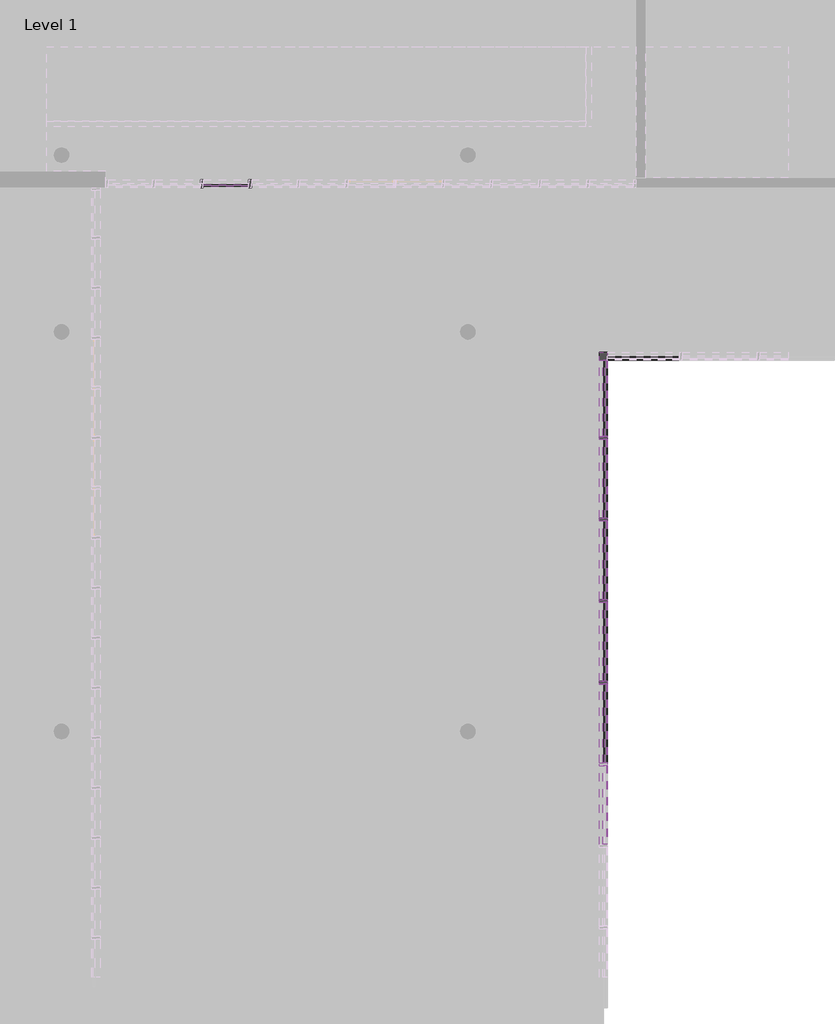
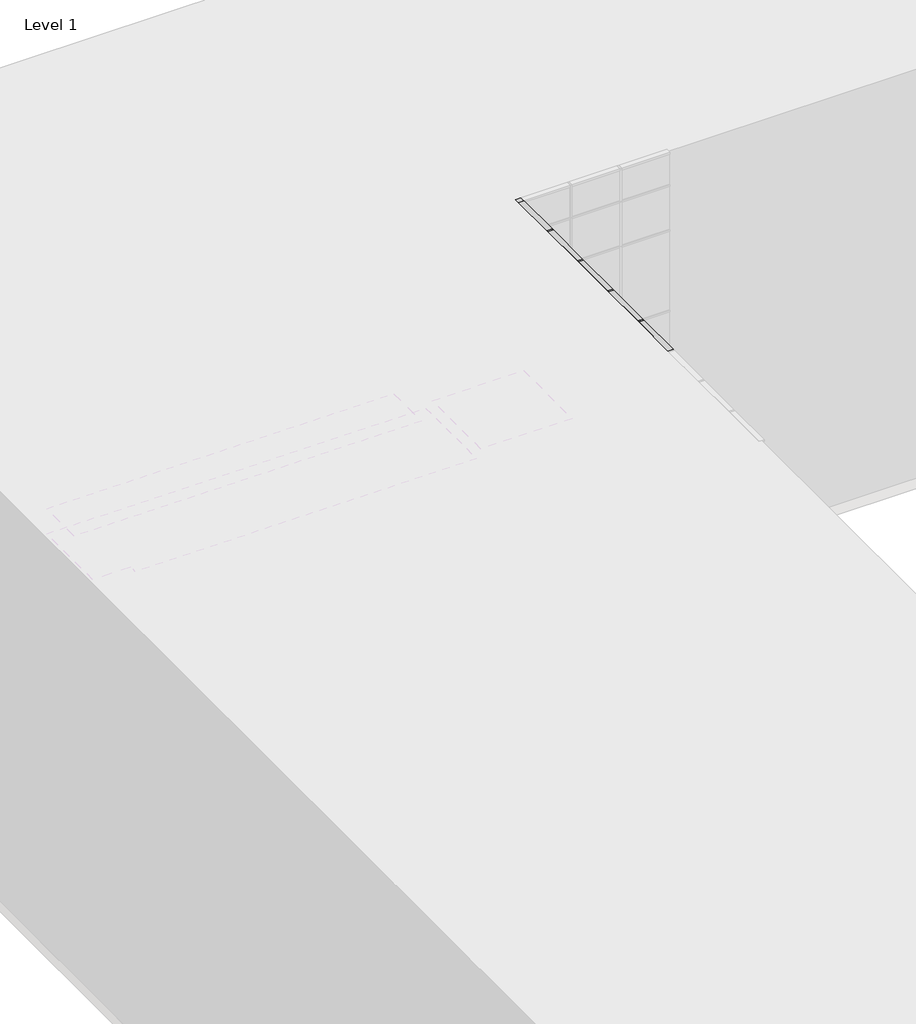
# One storey, part 13 of 27: 90 members, 39 plates.
"""IFC4 building model written with IfcOpenShell, lengths in millimetres."""

from ifc_helpers import new_model, si_unit, origin, place, context, project, spatial, transform, mapped, element, save
from components import quad_corner_mullion_quad_mullion_1_893af7fe, quad_corner_mullion_quad_mullion_1_37ac55ff, quad_corner_mullion_quad_mullion_1_d5379b67, rectangular_mullion_50mm_x_150mm_0e57614d, rectangular_mullion_50mm_x_150mm_d8a63713, rectangular_mullion_50mm_x_150mm_caa46ae3, rectangular_mullion_50mm_x_150mm_a28728bf, rectangular_mullion_50mm_x_150mm_70cae3e1, rectangular_mullion_50mm_x_150mm_5226f6e8, rectangular_mullion_50mm_x_150mm_4fd86324, rectangular_mullion_50mm_x_150mm_6edb5cd3, rectangular_mullion_50mm_x_150mm_4d4922e7, rectangular_mullion_50mm_x_150mm_bbc1c4ea, rectangular_mullion_50mm_x_150mm_36202a7c, rectangular_mullion_50mm_x_150mm_84717ec5, system_panel_glazed_4aef0c34, system_panel_glazed_45ebec01, system_panel_glazed_979b1f5c, system_panel_glazed_2d0f29b6, system_panel_glazed_2f061a2c, system_panel_glazed_cb2ac81e, system_panel_solid_281aa57f, system_panel_solid_7338a288, system_panel_solid_71fc82a1, system_panel_solid_0b170172

model = new_model("IFC4")

# Units and contexts
model_context = context("Model", 3, world=origin())
ifc_project = project(units=[si_unit("LENGTHUNIT", "METRE", prefix="MILLI")], contexts=[model_context])

# Site, building, storey
site = spatial("IfcSite", under=ifc_project)
building = spatial("IfcBuilding", under=site)
storey = spatial("IfcBuildingStorey", under=building, Name="Level 1", Elevation=0.0)

# Members
placement = place(None, origin())
quad_corner_mullion_quad_mullion_1_shape = quad_corner_mullion_quad_mullion_1_893af7fe(model_context)
element("IfcMember", 1, ObjectType="Quad Corner Mullion : Quad Mullion 1", at=placement, inside=storey, context=model_context, shape_type="MappedRepresentation", body=[
    mapped(quad_corner_mullion_quad_mullion_1_shape, transform((7447.5010724, 19414.8392059, 11400.0), x_axis=(0.0, 1.0, 0.0), y_axis=(1.0, 0.0, 0.0), z_axis=(0.0, 0.0, -1.0))),
])
quad_corner_mullion_quad_mullion_1_2_shape = quad_corner_mullion_quad_mullion_1_37ac55ff(model_context)
element("IfcMember", 2, ObjectType="Quad Corner Mullion : Quad Mullion 1", at=placement, inside=storey, context=model_context, shape_type="MappedRepresentation", body=[
    mapped(quad_corner_mullion_quad_mullion_1_2_shape, transform((7447.5010724, 19414.8392059, 0.0), x_axis=(0.0, 1.0, 0.0), y_axis=(1.0, 0.0, 0.0), z_axis=(0.0, 0.0, -1.0))),
])
quad_corner_mullion_quad_mullion_1_3_shape = quad_corner_mullion_quad_mullion_1_d5379b67(model_context)
element("IfcMember", 3, ObjectType="Quad Corner Mullion : Quad Mullion 1", at=placement, inside=storey, context=model_context, shape_type="MappedRepresentation", body=[
    mapped(quad_corner_mullion_quad_mullion_1_3_shape, transform((7447.5010724, 19414.8392059, 10040.0), x_axis=(0.0, 1.0, 0.0), y_axis=(1.0, 0.0, 0.0), z_axis=(0.0, 0.0, -1.0))),
])
element("IfcMember", 4, ObjectType="Quad Corner Mullion : Quad Mullion 1", at=placement, inside=storey, context=model_context, shape_type="MappedRepresentation", body=[
    mapped(quad_corner_mullion_quad_mullion_1_3_shape, transform((7447.5010724, 19414.8392059, 6240.0), x_axis=(0.0, 1.0, 0.0), y_axis=(1.0, 0.0, 0.0), z_axis=(0.0, 0.0, -1.0))),
])
element("IfcMember", 5, ObjectType="Quad Corner Mullion : Quad Mullion 1", at=placement, inside=storey, context=model_context, shape_type="MappedRepresentation", body=[
    mapped(quad_corner_mullion_quad_mullion_1_3_shape, transform((7447.5010724, 19414.8392059, 2440.0), x_axis=(0.0, 1.0, 0.0), y_axis=(1.0, 0.0, 0.0), z_axis=(0.0, 0.0, -1.0))),
])
element("IfcMember", 6, ObjectType="Quad Corner Mullion : Quad Mullion 1", at=placement, inside=storey, context=model_context, shape_type="MappedRepresentation", body=[
    mapped(quad_corner_mullion_quad_mullion_1_2_shape, transform((7447.5010724, 19414.8392059, 3800.0), x_axis=(0.0, 1.0, 0.0), y_axis=(1.0, 0.0, 0.0), z_axis=(0.0, 0.0, -1.0))),
])
element("IfcMember", 7, ObjectType="Quad Corner Mullion : Quad Mullion 1", at=placement, inside=storey, context=model_context, shape_type="MappedRepresentation", body=[
    mapped(quad_corner_mullion_quad_mullion_1_2_shape, transform((7447.5010724, 19414.8392059, 7600.0), x_axis=(0.0, 1.0, 0.0), y_axis=(1.0, 0.0, 0.0), z_axis=(0.0, 0.0, -1.0))),
])
rectangular_mullion_50mm_x_150mm_shape = rectangular_mullion_50mm_x_150mm_0e57614d(model_context)
element("IfcMember", 8, ObjectType="Rectangular Mullion : 50mm x 150mm", at=placement, inside=storey, context=model_context, shape_type="MappedRepresentation", body=[
    mapped(rectangular_mullion_50mm_x_150mm_shape, transform((962.43581, 22595.5799804, 3550.0), x_axis=(0.0, 0.0, 1.0), y_axis=(0.0, 1.0, 0.0), z_axis=(-1.0, 0.0, 0.0))),
])
element("IfcMember", 9, ObjectType="Rectangular Mullion : 50mm x 150mm", at=placement, inside=storey, context=model_context, shape_type="MappedRepresentation", body=[
    mapped(rectangular_mullion_50mm_x_150mm_shape, transform((73.6776523, 22595.5799804, 3550.0), x_axis=(0.0, 0.0, 1.0), y_axis=(0.0, 1.0, 0.0), z_axis=(-1.0, 0.0, 0.0))),
])
element("IfcMember", 10, ObjectType="Rectangular Mullion : 50mm x 150mm", at=placement, inside=storey, context=model_context, shape_type="MappedRepresentation", body=[
    mapped(rectangular_mullion_50mm_x_150mm_shape, transform((912.43581, 22595.5799804, 0.0), x_axis=(0.0, 0.0, -1.0), y_axis=(0.0, 1.0, 0.0), z_axis=(1.0, 0.0, 0.0))),
])
element("IfcMember", 11, ObjectType="Rectangular Mullion : 50mm x 150mm", at=placement, inside=storey, context=model_context, shape_type="MappedRepresentation", body=[
    mapped(rectangular_mullion_50mm_x_150mm_shape, transform((23.6776523, 22595.5799804, 0.0), x_axis=(0.0, 0.0, -1.0), y_axis=(0.0, 1.0, 0.0), z_axis=(1.0, 0.0, 0.0))),
])
rectangular_mullion_50mm_x_150mm_2_shape = rectangular_mullion_50mm_x_150mm_d8a63713(model_context)
element("IfcMember", 12, ObjectType="Rectangular Mullion : 50mm x 150mm", at=placement, inside=storey, context=model_context, shape_type="MappedRepresentation", body=[
    mapped(rectangular_mullion_50mm_x_150mm_2_shape, transform((937.43581, 22595.5799804, 0.0), x_axis=(-1.0, 0.0, 0.0), y_axis=(0.0, 1.0, 0.0), z_axis=(0.0, 0.0, -1.0))),
])
element("IfcMember", 13, ObjectType="Rectangular Mullion : 50mm x 150mm", at=placement, inside=storey, context=model_context, shape_type="MappedRepresentation", body=[
    mapped(rectangular_mullion_50mm_x_150mm_2_shape, transform((48.6776523, 22595.5799804, 0.0), x_axis=(-1.0, 0.0, 0.0), y_axis=(0.0, 1.0, 0.0), z_axis=(0.0, 0.0, -1.0))),
])
rectangular_mullion_50mm_x_150mm_3_shape = rectangular_mullion_50mm_x_150mm_caa46ae3(model_context)
element("IfcMember", 14, ObjectType="Rectangular Mullion : 50mm x 150mm", at=placement, inside=storey, context=model_context, shape_type="MappedRepresentation", body=[
    mapped(rectangular_mullion_50mm_x_150mm_3_shape, transform((962.43581, 22595.5799804, 2235.0), x_axis=(0.0, 0.0, 1.0), y_axis=(0.0, 1.0, 0.0), z_axis=(-1.0, 0.0, 0.0))),
])
element("IfcMember", 15, ObjectType="Rectangular Mullion : 50mm x 150mm", at=placement, inside=storey, context=model_context, shape_type="MappedRepresentation", body=[
    mapped(rectangular_mullion_50mm_x_150mm_3_shape, transform((73.6776523, 22595.5799804, 2235.0), x_axis=(0.0, 0.0, 1.0), y_axis=(0.0, 1.0, 0.0), z_axis=(-1.0, 0.0, 0.0))),
])
rectangular_mullion_50mm_x_150mm_4_shape = rectangular_mullion_50mm_x_150mm_a28728bf(model_context)
element("IfcMember", 16, ObjectType="Rectangular Mullion : 50mm x 150mm", at=placement, inside=storey, context=model_context, shape_type="MappedRepresentation", body=[
    mapped(rectangular_mullion_50mm_x_150mm_4_shape, transform((937.43581, 22595.5799804, 2135.0), x_axis=(-1.0, 0.0, 0.0), y_axis=(0.0, 1.0, 0.0), z_axis=(0.0, 0.0, -1.0))),
])
element("IfcMember", 17, ObjectType="Rectangular Mullion : 50mm x 150mm", at=placement, inside=storey, context=model_context, shape_type="MappedRepresentation", body=[
    mapped(rectangular_mullion_50mm_x_150mm_4_shape, transform((48.6776523, 22595.5799804, 2135.0), x_axis=(-1.0, 0.0, 0.0), y_axis=(0.0, 1.0, 0.0), z_axis=(0.0, 0.0, -1.0))),
])
rectangular_mullion_50mm_x_150mm_5_shape = rectangular_mullion_50mm_x_150mm_70cae3e1(model_context)
element("IfcMember", 18, ObjectType="Rectangular Mullion : 50mm x 150mm", at=placement, inside=storey, context=model_context, shape_type="MappedRepresentation", body=[
    mapped(rectangular_mullion_50mm_x_150mm_5_shape, transform((7447.5010724, 13380.8485819, 12400.0), x_axis=(0.0, 0.0, 1.0), y_axis=(1.0, 0.0, 0.0), z_axis=(0.0, 1.0, 0.0))),
])
element("IfcMember", 19, ObjectType="Rectangular Mullion : 50mm x 150mm", at=placement, inside=storey, context=model_context, shape_type="MappedRepresentation", body=[
    mapped(rectangular_mullion_50mm_x_150mm_5_shape, transform((7447.5010724, 14883.0962378, 12400.0), x_axis=(0.0, 0.0, 1.0), y_axis=(1.0, 0.0, 0.0), z_axis=(0.0, 1.0, 0.0))),
])
element("IfcMember", 20, ObjectType="Rectangular Mullion : 50mm x 150mm", at=placement, inside=storey, context=model_context, shape_type="MappedRepresentation", body=[
    mapped(rectangular_mullion_50mm_x_150mm_5_shape, transform((7447.5010724, 16385.3438937, 12400.0), x_axis=(0.0, 0.0, 1.0), y_axis=(1.0, 0.0, 0.0), z_axis=(0.0, 1.0, 0.0))),
])
element("IfcMember", 21, ObjectType="Rectangular Mullion : 50mm x 150mm", at=placement, inside=storey, context=model_context, shape_type="MappedRepresentation", body=[
    mapped(rectangular_mullion_50mm_x_150mm_5_shape, transform((7447.5010724, 17887.5915497, 12400.0), x_axis=(0.0, 0.0, 1.0), y_axis=(1.0, 0.0, 0.0), z_axis=(0.0, 1.0, 0.0))),
])
element("IfcMember", 22, ObjectType="Rectangular Mullion : 50mm x 150mm", at=placement, inside=storey, context=model_context, shape_type="MappedRepresentation", body=[
    mapped(rectangular_mullion_50mm_x_150mm_5_shape, transform((7447.5010724, 11928.6009259, 0.0), x_axis=(0.0, 0.0, -1.0), y_axis=(1.0, 0.0, 0.0), z_axis=(0.0, -1.0, 0.0))),
])
element("IfcMember", 23, ObjectType="Rectangular Mullion : 50mm x 150mm", at=placement, inside=storey, context=model_context, shape_type="MappedRepresentation", body=[
    mapped(rectangular_mullion_50mm_x_150mm_5_shape, transform((7447.5010724, 13430.8485819, 0.0), x_axis=(0.0, 0.0, -1.0), y_axis=(1.0, 0.0, 0.0), z_axis=(0.0, -1.0, 0.0))),
])
element("IfcMember", 24, ObjectType="Rectangular Mullion : 50mm x 150mm", at=placement, inside=storey, context=model_context, shape_type="MappedRepresentation", body=[
    mapped(rectangular_mullion_50mm_x_150mm_5_shape, transform((7447.5010724, 14933.0962378, 0.0), x_axis=(0.0, 0.0, -1.0), y_axis=(1.0, 0.0, 0.0), z_axis=(0.0, -1.0, 0.0))),
])
element("IfcMember", 25, ObjectType="Rectangular Mullion : 50mm x 150mm", at=placement, inside=storey, context=model_context, shape_type="MappedRepresentation", body=[
    mapped(rectangular_mullion_50mm_x_150mm_5_shape, transform((7447.5010724, 16435.3438937, 0.0), x_axis=(0.0, 0.0, -1.0), y_axis=(1.0, 0.0, 0.0), z_axis=(0.0, -1.0, 0.0))),
])
rectangular_mullion_50mm_x_150mm_6_shape = rectangular_mullion_50mm_x_150mm_5226f6e8(model_context)
element("IfcMember", 26, ObjectType="Rectangular Mullion : 50mm x 150mm", at=placement, inside=storey, context=model_context, shape_type="MappedRepresentation", body=[
    mapped(rectangular_mullion_50mm_x_150mm_6_shape, transform((7447.5010724, 13380.8485819, 3800.0), x_axis=(0.0, 0.0, 1.0), y_axis=(1.0, 0.0, 0.0), z_axis=(0.0, 1.0, 0.0))),
])
element("IfcMember", 27, ObjectType="Rectangular Mullion : 50mm x 150mm", at=placement, inside=storey, context=model_context, shape_type="MappedRepresentation", body=[
    mapped(rectangular_mullion_50mm_x_150mm_6_shape, transform((7447.5010724, 14883.0962378, 3800.0), x_axis=(0.0, 0.0, 1.0), y_axis=(1.0, 0.0, 0.0), z_axis=(0.0, 1.0, 0.0))),
])
element("IfcMember", 28, ObjectType="Rectangular Mullion : 50mm x 150mm", at=placement, inside=storey, context=model_context, shape_type="MappedRepresentation", body=[
    mapped(rectangular_mullion_50mm_x_150mm_6_shape, transform((7447.5010724, 16385.3438937, 3800.0), x_axis=(0.0, 0.0, 1.0), y_axis=(1.0, 0.0, 0.0), z_axis=(0.0, 1.0, 0.0))),
])
element("IfcMember", 29, ObjectType="Rectangular Mullion : 50mm x 150mm", at=placement, inside=storey, context=model_context, shape_type="MappedRepresentation", body=[
    mapped(rectangular_mullion_50mm_x_150mm_6_shape, transform((7447.5010724, 17887.5915497, 3800.0), x_axis=(0.0, 0.0, 1.0), y_axis=(1.0, 0.0, 0.0), z_axis=(0.0, 1.0, 0.0))),
])
element("IfcMember", 30, ObjectType="Rectangular Mullion : 50mm x 150mm", at=placement, inside=storey, context=model_context, shape_type="MappedRepresentation", body=[
    mapped(rectangular_mullion_50mm_x_150mm_6_shape, transform((7447.5010724, 13380.8485819, 7600.0), x_axis=(0.0, 0.0, 1.0), y_axis=(1.0, 0.0, 0.0), z_axis=(0.0, 1.0, 0.0))),
])
element("IfcMember", 31, ObjectType="Rectangular Mullion : 50mm x 150mm", at=placement, inside=storey, context=model_context, shape_type="MappedRepresentation", body=[
    mapped(rectangular_mullion_50mm_x_150mm_6_shape, transform((7447.5010724, 14883.0962378, 7600.0), x_axis=(0.0, 0.0, 1.0), y_axis=(1.0, 0.0, 0.0), z_axis=(0.0, 1.0, 0.0))),
])
element("IfcMember", 32, ObjectType="Rectangular Mullion : 50mm x 150mm", at=placement, inside=storey, context=model_context, shape_type="MappedRepresentation", body=[
    mapped(rectangular_mullion_50mm_x_150mm_6_shape, transform((7447.5010724, 16385.3438937, 7600.0), x_axis=(0.0, 0.0, 1.0), y_axis=(1.0, 0.0, 0.0), z_axis=(0.0, 1.0, 0.0))),
])
element("IfcMember", 33, ObjectType="Rectangular Mullion : 50mm x 150mm", at=placement, inside=storey, context=model_context, shape_type="MappedRepresentation", body=[
    mapped(rectangular_mullion_50mm_x_150mm_6_shape, transform((7447.5010724, 17887.5915497, 7600.0), x_axis=(0.0, 0.0, 1.0), y_axis=(1.0, 0.0, 0.0), z_axis=(0.0, 1.0, 0.0))),
])
element("IfcMember", 34, ObjectType="Rectangular Mullion : 50mm x 150mm", at=placement, inside=storey, context=model_context, shape_type="MappedRepresentation", body=[
    mapped(rectangular_mullion_50mm_x_150mm_6_shape, transform((7447.5010724, 13380.8485819, 11400.0), x_axis=(0.0, 0.0, 1.0), y_axis=(1.0, 0.0, 0.0), z_axis=(0.0, 1.0, 0.0))),
])
element("IfcMember", 35, ObjectType="Rectangular Mullion : 50mm x 150mm", at=placement, inside=storey, context=model_context, shape_type="MappedRepresentation", body=[
    mapped(rectangular_mullion_50mm_x_150mm_6_shape, transform((7447.5010724, 14883.0962378, 11400.0), x_axis=(0.0, 0.0, 1.0), y_axis=(1.0, 0.0, 0.0), z_axis=(0.0, 1.0, 0.0))),
])
element("IfcMember", 36, ObjectType="Rectangular Mullion : 50mm x 150mm", at=placement, inside=storey, context=model_context, shape_type="MappedRepresentation", body=[
    mapped(rectangular_mullion_50mm_x_150mm_6_shape, transform((7447.5010724, 16385.3438937, 11400.0), x_axis=(0.0, 0.0, 1.0), y_axis=(1.0, 0.0, 0.0), z_axis=(0.0, 1.0, 0.0))),
])
element("IfcMember", 37, ObjectType="Rectangular Mullion : 50mm x 150mm", at=placement, inside=storey, context=model_context, shape_type="MappedRepresentation", body=[
    mapped(rectangular_mullion_50mm_x_150mm_6_shape, transform((7447.5010724, 17887.5915497, 11400.0), x_axis=(0.0, 0.0, 1.0), y_axis=(1.0, 0.0, 0.0), z_axis=(0.0, 1.0, 0.0))),
])
element("IfcMember", 38, ObjectType="Rectangular Mullion : 50mm x 150mm", at=placement, inside=storey, context=model_context, shape_type="MappedRepresentation", body=[
    mapped(rectangular_mullion_50mm_x_150mm_6_shape, transform((7447.5010724, 13380.8485819, 10040.0), x_axis=(0.0, 0.0, 1.0), y_axis=(1.0, 0.0, 0.0), z_axis=(0.0, 1.0, 0.0))),
])
element("IfcMember", 39, ObjectType="Rectangular Mullion : 50mm x 150mm", at=placement, inside=storey, context=model_context, shape_type="MappedRepresentation", body=[
    mapped(rectangular_mullion_50mm_x_150mm_6_shape, transform((7447.5010724, 14883.0962378, 10040.0), x_axis=(0.0, 0.0, 1.0), y_axis=(1.0, 0.0, 0.0), z_axis=(0.0, 1.0, 0.0))),
])
element("IfcMember", 40, ObjectType="Rectangular Mullion : 50mm x 150mm", at=placement, inside=storey, context=model_context, shape_type="MappedRepresentation", body=[
    mapped(rectangular_mullion_50mm_x_150mm_6_shape, transform((7447.5010724, 16385.3438937, 10040.0), x_axis=(0.0, 0.0, 1.0), y_axis=(1.0, 0.0, 0.0), z_axis=(0.0, 1.0, 0.0))),
])
element("IfcMember", 41, ObjectType="Rectangular Mullion : 50mm x 150mm", at=placement, inside=storey, context=model_context, shape_type="MappedRepresentation", body=[
    mapped(rectangular_mullion_50mm_x_150mm_6_shape, transform((7447.5010724, 17887.5915497, 10040.0), x_axis=(0.0, 0.0, 1.0), y_axis=(1.0, 0.0, 0.0), z_axis=(0.0, 1.0, 0.0))),
])
element("IfcMember", 42, ObjectType="Rectangular Mullion : 50mm x 150mm", at=placement, inside=storey, context=model_context, shape_type="MappedRepresentation", body=[
    mapped(rectangular_mullion_50mm_x_150mm_6_shape, transform((7447.5010724, 11878.6009259, 6240.0), x_axis=(0.0, 0.0, 1.0), y_axis=(1.0, 0.0, 0.0), z_axis=(0.0, 1.0, 0.0))),
])
element("IfcMember", 43, ObjectType="Rectangular Mullion : 50mm x 150mm", at=placement, inside=storey, context=model_context, shape_type="MappedRepresentation", body=[
    mapped(rectangular_mullion_50mm_x_150mm_6_shape, transform((7447.5010724, 13380.8485819, 6240.0), x_axis=(0.0, 0.0, 1.0), y_axis=(1.0, 0.0, 0.0), z_axis=(0.0, 1.0, 0.0))),
])
element("IfcMember", 44, ObjectType="Rectangular Mullion : 50mm x 150mm", at=placement, inside=storey, context=model_context, shape_type="MappedRepresentation", body=[
    mapped(rectangular_mullion_50mm_x_150mm_6_shape, transform((7447.5010724, 14883.0962378, 6240.0), x_axis=(0.0, 0.0, 1.0), y_axis=(1.0, 0.0, 0.0), z_axis=(0.0, 1.0, 0.0))),
])
element("IfcMember", 45, ObjectType="Rectangular Mullion : 50mm x 150mm", at=placement, inside=storey, context=model_context, shape_type="MappedRepresentation", body=[
    mapped(rectangular_mullion_50mm_x_150mm_6_shape, transform((7447.5010724, 16385.3438937, 6240.0), x_axis=(0.0, 0.0, 1.0), y_axis=(1.0, 0.0, 0.0), z_axis=(0.0, 1.0, 0.0))),
])
element("IfcMember", 46, ObjectType="Rectangular Mullion : 50mm x 150mm", at=placement, inside=storey, context=model_context, shape_type="MappedRepresentation", body=[
    mapped(rectangular_mullion_50mm_x_150mm_6_shape, transform((7447.5010724, 17887.5915497, 6240.0), x_axis=(0.0, 0.0, 1.0), y_axis=(1.0, 0.0, 0.0), z_axis=(0.0, 1.0, 0.0))),
])
element("IfcMember", 47, ObjectType="Rectangular Mullion : 50mm x 150mm", at=placement, inside=storey, context=model_context, shape_type="MappedRepresentation", body=[
    mapped(rectangular_mullion_50mm_x_150mm_6_shape, transform((7447.5010724, 11878.6009259, 2440.0), x_axis=(0.0, 0.0, 1.0), y_axis=(1.0, 0.0, 0.0), z_axis=(0.0, 1.0, 0.0))),
])
element("IfcMember", 48, ObjectType="Rectangular Mullion : 50mm x 150mm", at=placement, inside=storey, context=model_context, shape_type="MappedRepresentation", body=[
    mapped(rectangular_mullion_50mm_x_150mm_6_shape, transform((7447.5010724, 13380.8485819, 2440.0), x_axis=(0.0, 0.0, 1.0), y_axis=(1.0, 0.0, 0.0), z_axis=(0.0, 1.0, 0.0))),
])
element("IfcMember", 49, ObjectType="Rectangular Mullion : 50mm x 150mm", at=placement, inside=storey, context=model_context, shape_type="MappedRepresentation", body=[
    mapped(rectangular_mullion_50mm_x_150mm_6_shape, transform((7447.5010724, 14883.0962378, 2440.0), x_axis=(0.0, 0.0, 1.0), y_axis=(1.0, 0.0, 0.0), z_axis=(0.0, 1.0, 0.0))),
])
element("IfcMember", 50, ObjectType="Rectangular Mullion : 50mm x 150mm", at=placement, inside=storey, context=model_context, shape_type="MappedRepresentation", body=[
    mapped(rectangular_mullion_50mm_x_150mm_6_shape, transform((7447.5010724, 16385.3438937, 2440.0), x_axis=(0.0, 0.0, 1.0), y_axis=(1.0, 0.0, 0.0), z_axis=(0.0, 1.0, 0.0))),
])
element("IfcMember", 51, ObjectType="Rectangular Mullion : 50mm x 150mm", at=placement, inside=storey, context=model_context, shape_type="MappedRepresentation", body=[
    mapped(rectangular_mullion_50mm_x_150mm_6_shape, transform((7447.5010724, 17887.5915497, 2440.0), x_axis=(0.0, 0.0, 1.0), y_axis=(1.0, 0.0, 0.0), z_axis=(0.0, 1.0, 0.0))),
])
rectangular_mullion_50mm_x_150mm_7_shape = rectangular_mullion_50mm_x_150mm_4fd86324(model_context)
element("IfcMember", 52, ObjectType="Rectangular Mullion : 50mm x 150mm", at=placement, inside=storey, context=model_context, shape_type="MappedRepresentation", body=[
    mapped(rectangular_mullion_50mm_x_150mm_7_shape, transform((7447.5010724, 19339.8392059, 12400.0), x_axis=(0.0, 0.0, 1.0), y_axis=(1.0, 0.0, 0.0), z_axis=(0.0, 1.0, 0.0))),
])
element("IfcMember", 53, ObjectType="Rectangular Mullion : 50mm x 150mm", at=placement, inside=storey, context=model_context, shape_type="MappedRepresentation", body=[
    mapped(rectangular_mullion_50mm_x_150mm_7_shape, transform((7447.5010724, 17937.5915497, 0.0), x_axis=(0.0, 0.0, -1.0), y_axis=(1.0, 0.0, 0.0), z_axis=(0.0, -1.0, 0.0))),
])
rectangular_mullion_50mm_x_150mm_8_shape = rectangular_mullion_50mm_x_150mm_6edb5cd3(model_context)
element("IfcMember", 54, ObjectType="Rectangular Mullion : 50mm x 150mm", at=placement, inside=storey, context=model_context, shape_type="MappedRepresentation", body=[
    mapped(rectangular_mullion_50mm_x_150mm_8_shape, transform((7447.5010724, 19339.8392059, 3800.0), x_axis=(0.0, 0.0, 1.0), y_axis=(1.0, 0.0, 0.0), z_axis=(0.0, 1.0, 0.0))),
])
element("IfcMember", 55, ObjectType="Rectangular Mullion : 50mm x 150mm", at=placement, inside=storey, context=model_context, shape_type="MappedRepresentation", body=[
    mapped(rectangular_mullion_50mm_x_150mm_8_shape, transform((7447.5010724, 19339.8392059, 7600.0), x_axis=(0.0, 0.0, 1.0), y_axis=(1.0, 0.0, 0.0), z_axis=(0.0, 1.0, 0.0))),
])
element("IfcMember", 56, ObjectType="Rectangular Mullion : 50mm x 150mm", at=placement, inside=storey, context=model_context, shape_type="MappedRepresentation", body=[
    mapped(rectangular_mullion_50mm_x_150mm_8_shape, transform((7447.5010724, 19339.8392059, 11400.0), x_axis=(0.0, 0.0, 1.0), y_axis=(1.0, 0.0, 0.0), z_axis=(0.0, 1.0, 0.0))),
])
element("IfcMember", 57, ObjectType="Rectangular Mullion : 50mm x 150mm", at=placement, inside=storey, context=model_context, shape_type="MappedRepresentation", body=[
    mapped(rectangular_mullion_50mm_x_150mm_8_shape, transform((7447.5010724, 19339.8392059, 10040.0), x_axis=(0.0, 0.0, 1.0), y_axis=(1.0, 0.0, 0.0), z_axis=(0.0, 1.0, 0.0))),
])
element("IfcMember", 58, ObjectType="Rectangular Mullion : 50mm x 150mm", at=placement, inside=storey, context=model_context, shape_type="MappedRepresentation", body=[
    mapped(rectangular_mullion_50mm_x_150mm_8_shape, transform((7447.5010724, 19339.8392059, 6240.0), x_axis=(0.0, 0.0, 1.0), y_axis=(1.0, 0.0, 0.0), z_axis=(0.0, 1.0, 0.0))),
])
element("IfcMember", 59, ObjectType="Rectangular Mullion : 50mm x 150mm", at=placement, inside=storey, context=model_context, shape_type="MappedRepresentation", body=[
    mapped(rectangular_mullion_50mm_x_150mm_8_shape, transform((7447.5010724, 19339.8392059, 2440.0), x_axis=(0.0, 0.0, 1.0), y_axis=(1.0, 0.0, 0.0), z_axis=(0.0, 1.0, 0.0))),
])
rectangular_mullion_50mm_x_150mm_9_shape = rectangular_mullion_50mm_x_150mm_4d4922e7(model_context)
element("IfcMember", 60, ObjectType="Rectangular Mullion : 50mm x 150mm", at=placement, inside=storey, context=model_context, shape_type="MappedRepresentation", body=[
    mapped(rectangular_mullion_50mm_x_150mm_9_shape, transform((7522.5010724, 19414.8392059, 0.0), x_axis=(0.0, 0.0, -1.0), y_axis=(0.0, -1.0, 0.0), z_axis=(-1.0, 0.0, 0.0))),
])
rectangular_mullion_50mm_x_150mm_10_shape = rectangular_mullion_50mm_x_150mm_bbc1c4ea(model_context)
element("IfcMember", 61, ObjectType="Rectangular Mullion : 50mm x 150mm", at=placement, inside=storey, context=model_context, shape_type="MappedRepresentation", body=[
    mapped(rectangular_mullion_50mm_x_150mm_10_shape, transform((7447.5010724, 13405.8485819, 11400.0), x_axis=(0.0, 1.0, 0.0), y_axis=(1.0, 0.0, 0.0), z_axis=(0.0, 0.0, -1.0))),
])
element("IfcMember", 62, ObjectType="Rectangular Mullion : 50mm x 150mm", at=placement, inside=storey, context=model_context, shape_type="MappedRepresentation", body=[
    mapped(rectangular_mullion_50mm_x_150mm_10_shape, transform((7447.5010724, 14908.0962378, 11400.0), x_axis=(0.0, 1.0, 0.0), y_axis=(1.0, 0.0, 0.0), z_axis=(0.0, 0.0, -1.0))),
])
element("IfcMember", 63, ObjectType="Rectangular Mullion : 50mm x 150mm", at=placement, inside=storey, context=model_context, shape_type="MappedRepresentation", body=[
    mapped(rectangular_mullion_50mm_x_150mm_10_shape, transform((7447.5010724, 16410.3438937, 11400.0), x_axis=(0.0, 1.0, 0.0), y_axis=(1.0, 0.0, 0.0), z_axis=(0.0, 0.0, -1.0))),
])
element("IfcMember", 64, ObjectType="Rectangular Mullion : 50mm x 150mm", at=placement, inside=storey, context=model_context, shape_type="MappedRepresentation", body=[
    mapped(rectangular_mullion_50mm_x_150mm_10_shape, transform((7447.5010724, 17912.5915497, 11400.0), x_axis=(0.0, 1.0, 0.0), y_axis=(1.0, 0.0, 0.0), z_axis=(0.0, 0.0, -1.0))),
])
rectangular_mullion_50mm_x_150mm_11_shape = rectangular_mullion_50mm_x_150mm_36202a7c(model_context)
element("IfcMember", 65, ObjectType="Rectangular Mullion : 50mm x 150mm", at=placement, inside=storey, context=model_context, shape_type="MappedRepresentation", body=[
    mapped(rectangular_mullion_50mm_x_150mm_11_shape, transform((7447.5010724, 13405.8485819, 0.0), x_axis=(0.0, 1.0, 0.0), y_axis=(1.0, 0.0, 0.0), z_axis=(0.0, 0.0, -1.0))),
])
element("IfcMember", 66, ObjectType="Rectangular Mullion : 50mm x 150mm", at=placement, inside=storey, context=model_context, shape_type="MappedRepresentation", body=[
    mapped(rectangular_mullion_50mm_x_150mm_11_shape, transform((7447.5010724, 14908.0962378, 0.0), x_axis=(0.0, 1.0, 0.0), y_axis=(1.0, 0.0, 0.0), z_axis=(0.0, 0.0, -1.0))),
])
element("IfcMember", 67, ObjectType="Rectangular Mullion : 50mm x 150mm", at=placement, inside=storey, context=model_context, shape_type="MappedRepresentation", body=[
    mapped(rectangular_mullion_50mm_x_150mm_11_shape, transform((7447.5010724, 16410.3438937, 0.0), x_axis=(0.0, 1.0, 0.0), y_axis=(1.0, 0.0, 0.0), z_axis=(0.0, 0.0, -1.0))),
])
element("IfcMember", 68, ObjectType="Rectangular Mullion : 50mm x 150mm", at=placement, inside=storey, context=model_context, shape_type="MappedRepresentation", body=[
    mapped(rectangular_mullion_50mm_x_150mm_11_shape, transform((7447.5010724, 17912.5915497, 0.0), x_axis=(0.0, 1.0, 0.0), y_axis=(1.0, 0.0, 0.0), z_axis=(0.0, 0.0, -1.0))),
])
rectangular_mullion_50mm_x_150mm_12_shape = rectangular_mullion_50mm_x_150mm_84717ec5(model_context)
element("IfcMember", 69, ObjectType="Rectangular Mullion : 50mm x 150mm", at=placement, inside=storey, context=model_context, shape_type="MappedRepresentation", body=[
    mapped(rectangular_mullion_50mm_x_150mm_12_shape, transform((7447.5010724, 13405.8485819, 10040.0), x_axis=(0.0, 1.0, 0.0), y_axis=(1.0, 0.0, 0.0), z_axis=(0.0, 0.0, -1.0))),
])
element("IfcMember", 70, ObjectType="Rectangular Mullion : 50mm x 150mm", at=placement, inside=storey, context=model_context, shape_type="MappedRepresentation", body=[
    mapped(rectangular_mullion_50mm_x_150mm_12_shape, transform((7447.5010724, 14908.0962378, 10040.0), x_axis=(0.0, 1.0, 0.0), y_axis=(1.0, 0.0, 0.0), z_axis=(0.0, 0.0, -1.0))),
])
element("IfcMember", 71, ObjectType="Rectangular Mullion : 50mm x 150mm", at=placement, inside=storey, context=model_context, shape_type="MappedRepresentation", body=[
    mapped(rectangular_mullion_50mm_x_150mm_12_shape, transform((7447.5010724, 16410.3438937, 10040.0), x_axis=(0.0, 1.0, 0.0), y_axis=(1.0, 0.0, 0.0), z_axis=(0.0, 0.0, -1.0))),
])
element("IfcMember", 72, ObjectType="Rectangular Mullion : 50mm x 150mm", at=placement, inside=storey, context=model_context, shape_type="MappedRepresentation", body=[
    mapped(rectangular_mullion_50mm_x_150mm_12_shape, transform((7447.5010724, 17912.5915497, 10040.0), x_axis=(0.0, 1.0, 0.0), y_axis=(1.0, 0.0, 0.0), z_axis=(0.0, 0.0, -1.0))),
])
element("IfcMember", 73, ObjectType="Rectangular Mullion : 50mm x 150mm", at=placement, inside=storey, context=model_context, shape_type="MappedRepresentation", body=[
    mapped(rectangular_mullion_50mm_x_150mm_12_shape, transform((7447.5010724, 11903.6009259, 6240.0), x_axis=(0.0, 1.0, 0.0), y_axis=(1.0, 0.0, 0.0), z_axis=(0.0, 0.0, -1.0))),
])
element("IfcMember", 74, ObjectType="Rectangular Mullion : 50mm x 150mm", at=placement, inside=storey, context=model_context, shape_type="MappedRepresentation", body=[
    mapped(rectangular_mullion_50mm_x_150mm_12_shape, transform((7447.5010724, 13405.8485819, 6240.0), x_axis=(0.0, 1.0, 0.0), y_axis=(1.0, 0.0, 0.0), z_axis=(0.0, 0.0, -1.0))),
])
element("IfcMember", 75, ObjectType="Rectangular Mullion : 50mm x 150mm", at=placement, inside=storey, context=model_context, shape_type="MappedRepresentation", body=[
    mapped(rectangular_mullion_50mm_x_150mm_12_shape, transform((7447.5010724, 14908.0962378, 6240.0), x_axis=(0.0, 1.0, 0.0), y_axis=(1.0, 0.0, 0.0), z_axis=(0.0, 0.0, -1.0))),
])
element("IfcMember", 76, ObjectType="Rectangular Mullion : 50mm x 150mm", at=placement, inside=storey, context=model_context, shape_type="MappedRepresentation", body=[
    mapped(rectangular_mullion_50mm_x_150mm_12_shape, transform((7447.5010724, 16410.3438937, 6240.0), x_axis=(0.0, 1.0, 0.0), y_axis=(1.0, 0.0, 0.0), z_axis=(0.0, 0.0, -1.0))),
])
element("IfcMember", 77, ObjectType="Rectangular Mullion : 50mm x 150mm", at=placement, inside=storey, context=model_context, shape_type="MappedRepresentation", body=[
    mapped(rectangular_mullion_50mm_x_150mm_12_shape, transform((7447.5010724, 17912.5915497, 6240.0), x_axis=(0.0, 1.0, 0.0), y_axis=(1.0, 0.0, 0.0), z_axis=(0.0, 0.0, -1.0))),
])
element("IfcMember", 78, ObjectType="Rectangular Mullion : 50mm x 150mm", at=placement, inside=storey, context=model_context, shape_type="MappedRepresentation", body=[
    mapped(rectangular_mullion_50mm_x_150mm_12_shape, transform((7447.5010724, 11903.6009259, 2440.0), x_axis=(0.0, 1.0, 0.0), y_axis=(1.0, 0.0, 0.0), z_axis=(0.0, 0.0, -1.0))),
])
element("IfcMember", 79, ObjectType="Rectangular Mullion : 50mm x 150mm", at=placement, inside=storey, context=model_context, shape_type="MappedRepresentation", body=[
    mapped(rectangular_mullion_50mm_x_150mm_12_shape, transform((7447.5010724, 13405.8485819, 2440.0), x_axis=(0.0, 1.0, 0.0), y_axis=(1.0, 0.0, 0.0), z_axis=(0.0, 0.0, -1.0))),
])
element("IfcMember", 80, ObjectType="Rectangular Mullion : 50mm x 150mm", at=placement, inside=storey, context=model_context, shape_type="MappedRepresentation", body=[
    mapped(rectangular_mullion_50mm_x_150mm_12_shape, transform((7447.5010724, 14908.0962378, 2440.0), x_axis=(0.0, 1.0, 0.0), y_axis=(1.0, 0.0, 0.0), z_axis=(0.0, 0.0, -1.0))),
])
element("IfcMember", 81, ObjectType="Rectangular Mullion : 50mm x 150mm", at=placement, inside=storey, context=model_context, shape_type="MappedRepresentation", body=[
    mapped(rectangular_mullion_50mm_x_150mm_12_shape, transform((7447.5010724, 16410.3438937, 2440.0), x_axis=(0.0, 1.0, 0.0), y_axis=(1.0, 0.0, 0.0), z_axis=(0.0, 0.0, -1.0))),
])
element("IfcMember", 82, ObjectType="Rectangular Mullion : 50mm x 150mm", at=placement, inside=storey, context=model_context, shape_type="MappedRepresentation", body=[
    mapped(rectangular_mullion_50mm_x_150mm_12_shape, transform((7447.5010724, 17912.5915497, 2440.0), x_axis=(0.0, 1.0, 0.0), y_axis=(1.0, 0.0, 0.0), z_axis=(0.0, 0.0, -1.0))),
])
element("IfcMember", 83, ObjectType="Rectangular Mullion : 50mm x 150mm", at=placement, inside=storey, context=model_context, shape_type="MappedRepresentation", body=[
    mapped(rectangular_mullion_50mm_x_150mm_11_shape, transform((7447.5010724, 13405.8485819, 3800.0), x_axis=(0.0, 1.0, 0.0), y_axis=(1.0, 0.0, 0.0), z_axis=(0.0, 0.0, -1.0))),
])
element("IfcMember", 84, ObjectType="Rectangular Mullion : 50mm x 150mm", at=placement, inside=storey, context=model_context, shape_type="MappedRepresentation", body=[
    mapped(rectangular_mullion_50mm_x_150mm_11_shape, transform((7447.5010724, 14908.0962378, 3800.0), x_axis=(0.0, 1.0, 0.0), y_axis=(1.0, 0.0, 0.0), z_axis=(0.0, 0.0, -1.0))),
])
element("IfcMember", 85, ObjectType="Rectangular Mullion : 50mm x 150mm", at=placement, inside=storey, context=model_context, shape_type="MappedRepresentation", body=[
    mapped(rectangular_mullion_50mm_x_150mm_11_shape, transform((7447.5010724, 16410.3438937, 3800.0), x_axis=(0.0, 1.0, 0.0), y_axis=(1.0, 0.0, 0.0), z_axis=(0.0, 0.0, -1.0))),
])
element("IfcMember", 86, ObjectType="Rectangular Mullion : 50mm x 150mm", at=placement, inside=storey, context=model_context, shape_type="MappedRepresentation", body=[
    mapped(rectangular_mullion_50mm_x_150mm_11_shape, transform((7447.5010724, 17912.5915497, 3800.0), x_axis=(0.0, 1.0, 0.0), y_axis=(1.0, 0.0, 0.0), z_axis=(0.0, 0.0, -1.0))),
])
element("IfcMember", 87, ObjectType="Rectangular Mullion : 50mm x 150mm", at=placement, inside=storey, context=model_context, shape_type="MappedRepresentation", body=[
    mapped(rectangular_mullion_50mm_x_150mm_11_shape, transform((7447.5010724, 13405.8485819, 7600.0), x_axis=(0.0, 1.0, 0.0), y_axis=(1.0, 0.0, 0.0), z_axis=(0.0, 0.0, -1.0))),
])
element("IfcMember", 88, ObjectType="Rectangular Mullion : 50mm x 150mm", at=placement, inside=storey, context=model_context, shape_type="MappedRepresentation", body=[
    mapped(rectangular_mullion_50mm_x_150mm_11_shape, transform((7447.5010724, 14908.0962378, 7600.0), x_axis=(0.0, 1.0, 0.0), y_axis=(1.0, 0.0, 0.0), z_axis=(0.0, 0.0, -1.0))),
])
element("IfcMember", 89, ObjectType="Rectangular Mullion : 50mm x 150mm", at=placement, inside=storey, context=model_context, shape_type="MappedRepresentation", body=[
    mapped(rectangular_mullion_50mm_x_150mm_11_shape, transform((7447.5010724, 16410.3438937, 7600.0), x_axis=(0.0, 1.0, 0.0), y_axis=(1.0, 0.0, 0.0), z_axis=(0.0, 0.0, -1.0))),
])
element("IfcMember", 90, ObjectType="Rectangular Mullion : 50mm x 150mm", at=placement, inside=storey, context=model_context, shape_type="MappedRepresentation", body=[
    mapped(rectangular_mullion_50mm_x_150mm_11_shape, transform((7447.5010724, 17912.5915497, 7600.0), x_axis=(0.0, 1.0, 0.0), y_axis=(1.0, 0.0, 0.0), z_axis=(0.0, 0.0, -1.0))),
])

# Plates
system_panel_glazed_shape = system_panel_glazed_4aef0c34(model_context)
element("IfcPlate", 91, ObjectType="System Panel : Glazed", at=placement, inside=storey, context=model_context, shape_type="MappedRepresentation", body=[
    mapped(system_panel_glazed_shape, transform((493.0567312, 22595.5799804, 50.0), x_axis=(-1.0, 0.0, 0.0), y_axis=(0.0, -1.0, 0.0), z_axis=(0.0, 0.0, 1.0))),
])
system_panel_glazed_2_shape = system_panel_glazed_45ebec01(model_context)
element("IfcPlate", 92, ObjectType="System Panel : Glazed", at=placement, inside=storey, context=model_context, shape_type="MappedRepresentation", body=[
    mapped(system_panel_glazed_2_shape, transform((493.0567312, 22595.5799804, 2160.0), x_axis=(-1.0, 0.0, 0.0), y_axis=(0.0, -1.0, 0.0), z_axis=(0.0, 0.0, 1.0))),
])
system_panel_glazed_3_shape = system_panel_glazed_979b1f5c(model_context)
element("IfcPlate", 93, ObjectType="System Panel : Glazed", at=placement, inside=storey, context=model_context, shape_type="MappedRepresentation", body=[
    mapped(system_panel_glazed_3_shape, transform((7447.5010724, 12654.7247539, 3825.0), x_axis=(0.0, 1.0, 0.0), y_axis=(-1.0, 0.0, 0.0), z_axis=(0.0, 0.0, 1.0))),
])
element("IfcPlate", 94, ObjectType="System Panel : Glazed", at=placement, inside=storey, context=model_context, shape_type="MappedRepresentation", body=[
    mapped(system_panel_glazed_3_shape, transform((7447.5010724, 14156.9724098, 3825.0), x_axis=(0.0, 1.0, 0.0), y_axis=(-1.0, 0.0, 0.0), z_axis=(0.0, 0.0, 1.0))),
])
element("IfcPlate", 95, ObjectType="System Panel : Glazed", at=placement, inside=storey, context=model_context, shape_type="MappedRepresentation", body=[
    mapped(system_panel_glazed_3_shape, transform((7447.5010724, 15659.2200658, 3825.0), x_axis=(0.0, 1.0, 0.0), y_axis=(-1.0, 0.0, 0.0), z_axis=(0.0, 0.0, 1.0))),
])
element("IfcPlate", 96, ObjectType="System Panel : Glazed", at=placement, inside=storey, context=model_context, shape_type="MappedRepresentation", body=[
    mapped(system_panel_glazed_3_shape, transform((7447.5010724, 17161.4677217, 3825.0), x_axis=(0.0, 1.0, 0.0), y_axis=(-1.0, 0.0, 0.0), z_axis=(0.0, 0.0, 1.0))),
])
element("IfcPlate", 97, ObjectType="System Panel : Glazed", at=placement, inside=storey, context=model_context, shape_type="MappedRepresentation", body=[
    mapped(system_panel_glazed_3_shape, transform((7447.5010724, 12654.7247539, 7625.0), x_axis=(0.0, 1.0, 0.0), y_axis=(-1.0, 0.0, 0.0), z_axis=(0.0, 0.0, 1.0))),
])
element("IfcPlate", 98, ObjectType="System Panel : Glazed", at=placement, inside=storey, context=model_context, shape_type="MappedRepresentation", body=[
    mapped(system_panel_glazed_3_shape, transform((7447.5010724, 14156.9724098, 7625.0), x_axis=(0.0, 1.0, 0.0), y_axis=(-1.0, 0.0, 0.0), z_axis=(0.0, 0.0, 1.0))),
])
element("IfcPlate", 99, ObjectType="System Panel : Glazed", at=placement, inside=storey, context=model_context, shape_type="MappedRepresentation", body=[
    mapped(system_panel_glazed_3_shape, transform((7447.5010724, 15659.2200658, 7625.0), x_axis=(0.0, 1.0, 0.0), y_axis=(-1.0, 0.0, 0.0), z_axis=(0.0, 0.0, 1.0))),
])
element("IfcPlate", 100, ObjectType="System Panel : Glazed", at=placement, inside=storey, context=model_context, shape_type="MappedRepresentation", body=[
    mapped(system_panel_glazed_3_shape, transform((7447.5010724, 17161.4677217, 7625.0), x_axis=(0.0, 1.0, 0.0), y_axis=(-1.0, 0.0, 0.0), z_axis=(0.0, 0.0, 1.0))),
])
system_panel_glazed_4_shape = system_panel_glazed_2d0f29b6(model_context)
element("IfcPlate", 101, ObjectType="System Panel : Glazed", at=placement, inside=storey, context=model_context, shape_type="MappedRepresentation", body=[
    mapped(system_panel_glazed_4_shape, transform((7447.5010724, 18638.7153778, 3825.0), x_axis=(0.0, 1.0, 0.0), y_axis=(-1.0, 0.0, 0.0), z_axis=(0.0, 0.0, 1.0))),
])
element("IfcPlate", 102, ObjectType="System Panel : Glazed", at=placement, inside=storey, context=model_context, shape_type="MappedRepresentation", body=[
    mapped(system_panel_glazed_4_shape, transform((7447.5010724, 18638.7153778, 7625.0), x_axis=(0.0, 1.0, 0.0), y_axis=(-1.0, 0.0, 0.0), z_axis=(0.0, 0.0, 1.0))),
])
system_panel_glazed_5_shape = system_panel_glazed_2f061a2c(model_context)
element("IfcPlate", 103, ObjectType="System Panel : Glazed", at=placement, inside=storey, context=model_context, shape_type="MappedRepresentation", body=[
    mapped(system_panel_glazed_5_shape, transform((7447.5010724, 12654.7247539, 50.0), x_axis=(0.0, 1.0, 0.0), y_axis=(-1.0, 0.0, 0.0), z_axis=(0.0, 0.0, 1.0))),
])
element("IfcPlate", 104, ObjectType="System Panel : Glazed", at=placement, inside=storey, context=model_context, shape_type="MappedRepresentation", body=[
    mapped(system_panel_glazed_5_shape, transform((7447.5010724, 14156.9724098, 50.0), x_axis=(0.0, 1.0, 0.0), y_axis=(-1.0, 0.0, 0.0), z_axis=(0.0, 0.0, 1.0))),
])
element("IfcPlate", 105, ObjectType="System Panel : Glazed", at=placement, inside=storey, context=model_context, shape_type="MappedRepresentation", body=[
    mapped(system_panel_glazed_5_shape, transform((7447.5010724, 15659.2200658, 50.0), x_axis=(0.0, 1.0, 0.0), y_axis=(-1.0, 0.0, 0.0), z_axis=(0.0, 0.0, 1.0))),
])
element("IfcPlate", 106, ObjectType="System Panel : Glazed", at=placement, inside=storey, context=model_context, shape_type="MappedRepresentation", body=[
    mapped(system_panel_glazed_5_shape, transform((7447.5010724, 17161.4677217, 50.0), x_axis=(0.0, 1.0, 0.0), y_axis=(-1.0, 0.0, 0.0), z_axis=(0.0, 0.0, 1.0))),
])
system_panel_glazed_6_shape = system_panel_glazed_cb2ac81e(model_context)
element("IfcPlate", 107, ObjectType="System Panel : Glazed", at=placement, inside=storey, context=model_context, shape_type="MappedRepresentation", body=[
    mapped(system_panel_glazed_6_shape, transform((7447.5010724, 18638.7153778, 50.0), x_axis=(0.0, 1.0, 0.0), y_axis=(-1.0, 0.0, 0.0), z_axis=(0.0, 0.0, 1.0))),
])
system_panel_solid_shape = system_panel_solid_281aa57f(model_context)
element("IfcPlate", 108, ObjectType="System Panel : Solid", at=placement, inside=storey, context=model_context, shape_type="MappedRepresentation", body=[
    mapped(system_panel_solid_shape, transform((7447.5010724, 18638.7153778, 11425.0), x_axis=(0.0, 1.0, 0.0), y_axis=(-1.0, 0.0, 0.0), z_axis=(0.0, 0.0, 1.0))),
])
system_panel_solid_2_shape = system_panel_solid_7338a288(model_context)
element("IfcPlate", 109, ObjectType="System Panel : Solid", at=placement, inside=storey, context=model_context, shape_type="MappedRepresentation", body=[
    mapped(system_panel_solid_2_shape, transform((7447.5010724, 12654.7247539, 11425.0), x_axis=(0.0, 1.0, 0.0), y_axis=(-1.0, 0.0, 0.0), z_axis=(0.0, 0.0, 1.0))),
])
element("IfcPlate", 110, ObjectType="System Panel : Solid", at=placement, inside=storey, context=model_context, shape_type="MappedRepresentation", body=[
    mapped(system_panel_solid_2_shape, transform((7447.5010724, 14156.9724098, 11425.0), x_axis=(0.0, 1.0, 0.0), y_axis=(-1.0, 0.0, 0.0), z_axis=(0.0, 0.0, 1.0))),
])
element("IfcPlate", 111, ObjectType="System Panel : Solid", at=placement, inside=storey, context=model_context, shape_type="MappedRepresentation", body=[
    mapped(system_panel_solid_2_shape, transform((7447.5010724, 15659.2200658, 11425.0), x_axis=(0.0, 1.0, 0.0), y_axis=(-1.0, 0.0, 0.0), z_axis=(0.0, 0.0, 1.0))),
])
element("IfcPlate", 112, ObjectType="System Panel : Solid", at=placement, inside=storey, context=model_context, shape_type="MappedRepresentation", body=[
    mapped(system_panel_solid_2_shape, transform((7447.5010724, 17161.4677217, 11425.0), x_axis=(0.0, 1.0, 0.0), y_axis=(-1.0, 0.0, 0.0), z_axis=(0.0, 0.0, 1.0))),
])
system_panel_solid_3_shape = system_panel_solid_71fc82a1(model_context)
element("IfcPlate", 113, ObjectType="System Panel : Solid", at=placement, inside=storey, context=model_context, shape_type="MappedRepresentation", body=[
    mapped(system_panel_solid_3_shape, transform((7447.5010724, 18638.7153778, 10065.0), x_axis=(0.0, 1.0, 0.0), y_axis=(-1.0, 0.0, 0.0), z_axis=(0.0, 0.0, 1.0))),
])
element("IfcPlate", 114, ObjectType="System Panel : Solid", at=placement, inside=storey, context=model_context, shape_type="MappedRepresentation", body=[
    mapped(system_panel_solid_3_shape, transform((7447.5010724, 18638.7153778, 6265.0), x_axis=(0.0, 1.0, 0.0), y_axis=(-1.0, 0.0, 0.0), z_axis=(0.0, 0.0, 1.0))),
])
element("IfcPlate", 115, ObjectType="System Panel : Solid", at=placement, inside=storey, context=model_context, shape_type="MappedRepresentation", body=[
    mapped(system_panel_solid_3_shape, transform((7447.5010724, 18638.7153778, 2465.0), x_axis=(0.0, 1.0, 0.0), y_axis=(-1.0, 0.0, 0.0), z_axis=(0.0, 0.0, 1.0))),
])
system_panel_solid_4_shape = system_panel_solid_0b170172(model_context)
element("IfcPlate", 116, ObjectType="System Panel : Solid", at=placement, inside=storey, context=model_context, shape_type="MappedRepresentation", body=[
    mapped(system_panel_solid_4_shape, transform((7447.5010724, 12654.7247539, 10065.0), x_axis=(0.0, 1.0, 0.0), y_axis=(-1.0, 0.0, 0.0), z_axis=(0.0, 0.0, 1.0))),
])
element("IfcPlate", 117, ObjectType="System Panel : Solid", at=placement, inside=storey, context=model_context, shape_type="MappedRepresentation", body=[
    mapped(system_panel_solid_4_shape, transform((7447.5010724, 14156.9724098, 10065.0), x_axis=(0.0, 1.0, 0.0), y_axis=(-1.0, 0.0, 0.0), z_axis=(0.0, 0.0, 1.0))),
])
element("IfcPlate", 118, ObjectType="System Panel : Solid", at=placement, inside=storey, context=model_context, shape_type="MappedRepresentation", body=[
    mapped(system_panel_solid_4_shape, transform((7447.5010724, 15659.2200658, 10065.0), x_axis=(0.0, 1.0, 0.0), y_axis=(-1.0, 0.0, 0.0), z_axis=(0.0, 0.0, 1.0))),
])
element("IfcPlate", 119, ObjectType="System Panel : Solid", at=placement, inside=storey, context=model_context, shape_type="MappedRepresentation", body=[
    mapped(system_panel_solid_4_shape, transform((7447.5010724, 17161.4677217, 10065.0), x_axis=(0.0, 1.0, 0.0), y_axis=(-1.0, 0.0, 0.0), z_axis=(0.0, 0.0, 1.0))),
])
element("IfcPlate", 120, ObjectType="System Panel : Solid", at=placement, inside=storey, context=model_context, shape_type="MappedRepresentation", body=[
    mapped(system_panel_solid_4_shape, transform((7447.5010724, 11152.477098, 6265.0), x_axis=(0.0, 1.0, 0.0), y_axis=(-1.0, 0.0, 0.0), z_axis=(0.0, 0.0, 1.0))),
])
element("IfcPlate", 121, ObjectType="System Panel : Solid", at=placement, inside=storey, context=model_context, shape_type="MappedRepresentation", body=[
    mapped(system_panel_solid_4_shape, transform((7447.5010724, 12654.7247539, 6265.0), x_axis=(0.0, 1.0, 0.0), y_axis=(-1.0, 0.0, 0.0), z_axis=(0.0, 0.0, 1.0))),
])
element("IfcPlate", 122, ObjectType="System Panel : Solid", at=placement, inside=storey, context=model_context, shape_type="MappedRepresentation", body=[
    mapped(system_panel_solid_4_shape, transform((7447.5010724, 14156.9724098, 6265.0), x_axis=(0.0, 1.0, 0.0), y_axis=(-1.0, 0.0, 0.0), z_axis=(0.0, 0.0, 1.0))),
])
element("IfcPlate", 123, ObjectType="System Panel : Solid", at=placement, inside=storey, context=model_context, shape_type="MappedRepresentation", body=[
    mapped(system_panel_solid_4_shape, transform((7447.5010724, 15659.2200658, 6265.0), x_axis=(0.0, 1.0, 0.0), y_axis=(-1.0, 0.0, 0.0), z_axis=(0.0, 0.0, 1.0))),
])
element("IfcPlate", 124, ObjectType="System Panel : Solid", at=placement, inside=storey, context=model_context, shape_type="MappedRepresentation", body=[
    mapped(system_panel_solid_4_shape, transform((7447.5010724, 17161.4677217, 6265.0), x_axis=(0.0, 1.0, 0.0), y_axis=(-1.0, 0.0, 0.0), z_axis=(0.0, 0.0, 1.0))),
])
element("IfcPlate", 125, ObjectType="System Panel : Solid", at=placement, inside=storey, context=model_context, shape_type="MappedRepresentation", body=[
    mapped(system_panel_solid_4_shape, transform((7447.5010724, 11152.477098, 2465.0), x_axis=(0.0, 1.0, 0.0), y_axis=(-1.0, 0.0, 0.0), z_axis=(0.0, 0.0, 1.0))),
])
element("IfcPlate", 126, ObjectType="System Panel : Solid", at=placement, inside=storey, context=model_context, shape_type="MappedRepresentation", body=[
    mapped(system_panel_solid_4_shape, transform((7447.5010724, 12654.7247539, 2465.0), x_axis=(0.0, 1.0, 0.0), y_axis=(-1.0, 0.0, 0.0), z_axis=(0.0, 0.0, 1.0))),
])
element("IfcPlate", 127, ObjectType="System Panel : Solid", at=placement, inside=storey, context=model_context, shape_type="MappedRepresentation", body=[
    mapped(system_panel_solid_4_shape, transform((7447.5010724, 14156.9724098, 2465.0), x_axis=(0.0, 1.0, 0.0), y_axis=(-1.0, 0.0, 0.0), z_axis=(0.0, 0.0, 1.0))),
])
element("IfcPlate", 128, ObjectType="System Panel : Solid", at=placement, inside=storey, context=model_context, shape_type="MappedRepresentation", body=[
    mapped(system_panel_solid_4_shape, transform((7447.5010724, 15659.2200658, 2465.0), x_axis=(0.0, 1.0, 0.0), y_axis=(-1.0, 0.0, 0.0), z_axis=(0.0, 0.0, 1.0))),
])
element("IfcPlate", 129, ObjectType="System Panel : Solid", at=placement, inside=storey, context=model_context, shape_type="MappedRepresentation", body=[
    mapped(system_panel_solid_4_shape, transform((7447.5010724, 17161.4677217, 2465.0), x_axis=(0.0, 1.0, 0.0), y_axis=(-1.0, 0.0, 0.0), z_axis=(0.0, 0.0, 1.0))),
])

save(model, "model.ifc")
